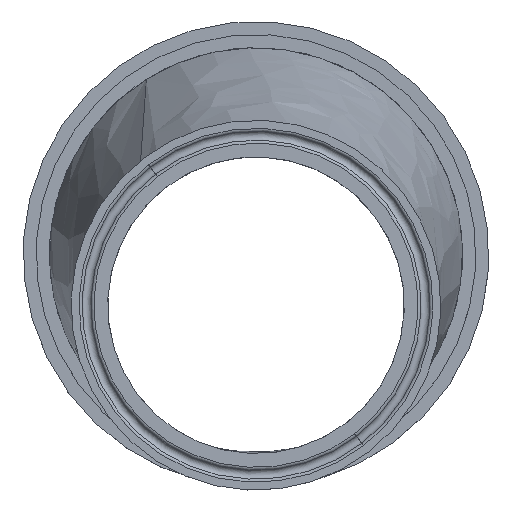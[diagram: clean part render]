
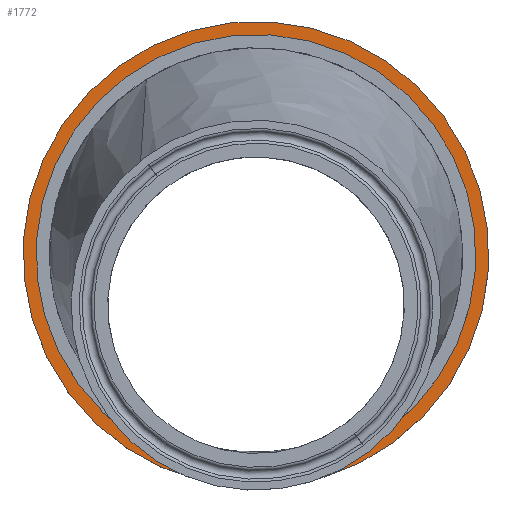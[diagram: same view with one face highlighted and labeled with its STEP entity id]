
A CAD part, top view. The second image highlights one B-rep face of the part: STEP entity #1772.
In plain terms, the highlighted planar face has unit normal (0, 0, 1) as drawn and (1, 0, 0) by its records, which use the part's own axes.
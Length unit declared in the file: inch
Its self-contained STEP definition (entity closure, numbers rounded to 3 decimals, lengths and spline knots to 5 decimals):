
#45 = VERTEX_POINT ( 'NONE', #1758 ) ;
#50 = CIRCLE ( 'NONE', #602, 2.128 ) ;
#92 = CIRCLE ( 'NONE', #1300, 2.128 ) ;
#121 = DIRECTION ( 'NONE',  ( 0., 0., 1. ) ) ;
#129 = EDGE_CURVE ( 'NONE', #1584, #2077, #789, .T. ) ;
#221 = PLANE ( 'NONE',  #1504 ) ;
#250 = DIRECTION ( 'NONE',  ( -1., 0., 0. ) ) ;
#375 = DIRECTION ( 'NONE',  ( 1., 0., 0. ) ) ;
#472 = CIRCLE ( 'NONE', #1674, 2.254 ) ;
#596 = EDGE_LOOP ( 'NONE', ( #597, #1392 ) ) ;
#597 = ORIENTED_EDGE ( 'NONE', *, *, #1133, .T. ) ;
#602 = AXIS2_PLACEMENT_3D ( 'NONE', #2110, #1773, #1135 ) ;
#644 = EDGE_LOOP ( 'NONE', ( #1962, #1142 ) ) ;
#714 = CARTESIAN_POINT ( 'NONE',  ( -0.468, -0.128, 0. ) ) ;
#743 = DIRECTION ( 'NONE',  ( 0., 0., 1. ) ) ;
#770 = CARTESIAN_POINT ( 'NONE',  ( -0.468, 2., 0. ) ) ;
#789 = CIRCLE ( 'NONE', #2055, 2.254 ) ;
#946 = EDGE_CURVE ( 'NONE', #1029, #45, #92, .T. ) ;
#1029 = VERTEX_POINT ( 'NONE', #1564 ) ;
#1080 = CARTESIAN_POINT ( 'NONE',  ( -0.468, 2., -2.254 ) ) ;
#1133 = EDGE_CURVE ( 'NONE', #45, #1029, #50, .T. ) ;
#1135 = DIRECTION ( 'NONE',  ( 0., 0., 1. ) ) ;
#1142 = ORIENTED_EDGE ( 'NONE', *, *, #1335, .F. ) ;
#1188 = FACE_OUTER_BOUND ( 'NONE', #644, .T. ) ;
#1245 = DIRECTION ( 'NONE',  ( -1., 0., 0. ) ) ;
#1300 = AXIS2_PLACEMENT_3D ( 'NONE', #770, #1599, #2050 ) ;
#1335 = EDGE_CURVE ( 'NONE', #2077, #1584, #472, .T. ) ;
#1368 = DIRECTION ( 'NONE',  ( 0., 0., -1. ) ) ;
#1392 = ORIENTED_EDGE ( 'NONE', *, *, #946, .T. ) ;
#1504 = AXIS2_PLACEMENT_3D ( 'NONE', #714, #375, #1368 ) ;
#1564 = CARTESIAN_POINT ( 'NONE',  ( -0.468, 2., -2.128 ) ) ;
#1584 = VERTEX_POINT ( 'NONE', #2121 ) ;
#1599 = DIRECTION ( 'NONE',  ( -1., 0., 0. ) ) ;
#1674 = AXIS2_PLACEMENT_3D ( 'NONE', #2119, #1245, #121 ) ;
#1695 = FACE_BOUND ( 'NONE', #596, .T. ) ;
#1758 = CARTESIAN_POINT ( 'NONE',  ( -0.468, 2., 2.128 ) ) ;
#1772 = ADVANCED_FACE ( 'NONE', ( #1695, #1188 ), #221, .T. ) ;
#1773 = DIRECTION ( 'NONE',  ( -1., 0., 0. ) ) ;
#1910 = CARTESIAN_POINT ( 'NONE',  ( -0.468, 2., 0. ) ) ;
#1962 = ORIENTED_EDGE ( 'NONE', *, *, #129, .F. ) ;
#2050 = DIRECTION ( 'NONE',  ( 0., 0., 1. ) ) ;
#2055 = AXIS2_PLACEMENT_3D ( 'NONE', #1910, #250, #743 ) ;
#2077 = VERTEX_POINT ( 'NONE', #1080 ) ;
#2110 = CARTESIAN_POINT ( 'NONE',  ( -0.468, 2., 0. ) ) ;
#2119 = CARTESIAN_POINT ( 'NONE',  ( -0.468, 2., 0. ) ) ;
#2121 = CARTESIAN_POINT ( 'NONE',  ( -0.468, 2., 2.254 ) ) ;
